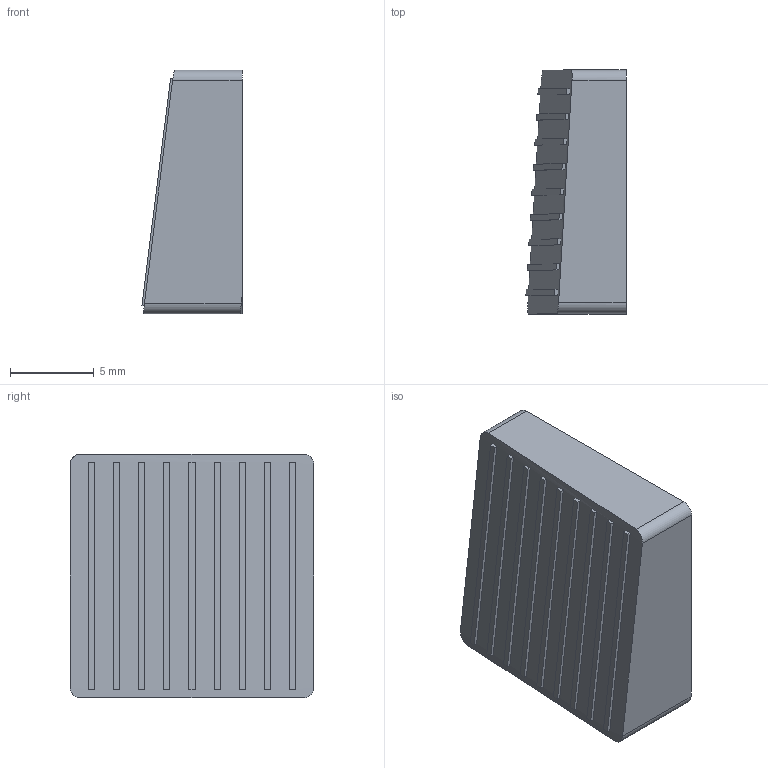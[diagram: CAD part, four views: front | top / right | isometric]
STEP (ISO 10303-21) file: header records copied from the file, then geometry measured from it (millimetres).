
FILE_DESCRIPTION(('Open CASCADE Model'),'2;1');
FILE_NAME('Open CASCADE Shape Model','2026-10-28T00:38:00',('Author'),( 'Open CASCADE'),'Open CASCADE STEP processor 7.8','Open CASCADE 7.8' ,'Unknown');
FILE_SCHEMA(('AUTOMOTIVE_DESIGN { 1 0 10303 214 1 1 1 1 }'));
Length unit declared in the file: millimetre
Products named in the file (1): Open CASCADE STEP translator 7.8 11
Bounding box: 6 x 14.6 x 14.6 mm (x, y, z)
Volume: 987.9 mm3; surface area: 739.8 mm2
Topology: 1 solids, 1 shells, 56 faces, 135 edges, 90 vertices
Faces by surface type: plane 41, bspline 11, cylinder 4
Entity records: 18276 total; most frequent: CARTESIAN_POINT 16014, ORIENTED_EDGE 270, PCURVE 270, DEFINITIONAL_REPRESENTATION 270, B_SPLINE_CURVE_WITH_KNOTS 260, DIRECTION 240, LINE 139, VECTOR 139
